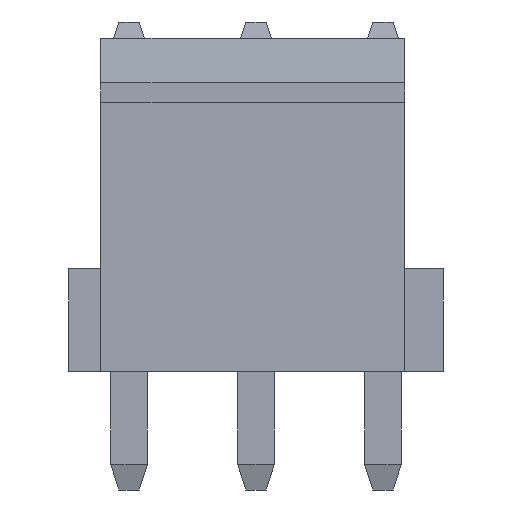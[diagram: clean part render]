
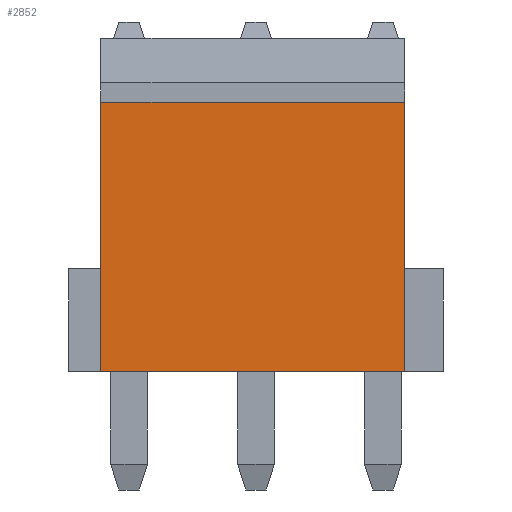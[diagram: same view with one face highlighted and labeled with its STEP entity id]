
A CAD part, left-side view. The second image highlights one B-rep face of the part: STEP entity #2852.
In plain terms, the highlighted planar face has unit normal (-1, 0, 0).
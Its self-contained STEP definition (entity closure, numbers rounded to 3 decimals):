
#998 = PLANE('',#999);
#999 = AXIS2_PLACEMENT_3D('',#1000,#1001,#1002);
#1000 = CARTESIAN_POINT('',(-3.2,-0.68,0.));
#1001 = DIRECTION('',(0.,1.,0.));
#1002 = DIRECTION('',(0.,0.,1.));
#1102 = PLANE('',#1103);
#1103 = AXIS2_PLACEMENT_3D('',#1104,#1105,#1106);
#1104 = CARTESIAN_POINT('',(-3.2,8.8,0.));
#1105 = DIRECTION('',(0.,1.,0.));
#1106 = DIRECTION('',(0.,0.,1.));
#1730 = VERTEX_POINT('',#1731);
#1731 = CARTESIAN_POINT('',(-3.2,-0.68,0.));
#1745 = PLANE('',#1746);
#1746 = AXIS2_PLACEMENT_3D('',#1747,#1748,#1749);
#1747 = CARTESIAN_POINT('',(-3.2,-0.68,0.));
#1748 = DIRECTION('',(0.,0.,1.));
#1749 = DIRECTION('',(1.,0.,0.));
#1757 = EDGE_CURVE('',#1730,#1758,#1760,.T.);
#1758 = VERTEX_POINT('',#1759);
#1759 = CARTESIAN_POINT('',(-3.2,-0.68,8.4));
#1760 = SURFACE_CURVE('',#1761,(#1765,#1772),.PCURVE_S1.);
#1761 = LINE('',#1762,#1763);
#1762 = CARTESIAN_POINT('',(-3.2,-0.68,0.));
#1763 = VECTOR('',#1764,1.);
#1764 = DIRECTION('',(0.,0.,1.));
#1765 = PCURVE('',#998,#1766);
#1766 = DEFINITIONAL_REPRESENTATION('',(#1767),#1771);
#1767 = LINE('',#1768,#1769);
#1768 = CARTESIAN_POINT('',(0.,0.));
#1769 = VECTOR('',#1770,1.);
#1770 = DIRECTION('',(1.,0.));
#1771 = ( GEOMETRIC_REPRESENTATION_CONTEXT(2) 
PARAMETRIC_REPRESENTATION_CONTEXT() REPRESENTATION_CONTEXT('2D SPACE',''
  ) );
#1772 = PCURVE('',#1773,#1778);
#1773 = PLANE('',#1774);
#1774 = AXIS2_PLACEMENT_3D('',#1775,#1776,#1777);
#1775 = CARTESIAN_POINT('',(-3.2,-0.68,0.));
#1776 = DIRECTION('',(1.,0.,0.));
#1777 = DIRECTION('',(0.,0.,1.));
#1778 = DEFINITIONAL_REPRESENTATION('',(#1779),#1783);
#1779 = LINE('',#1780,#1781);
#1780 = CARTESIAN_POINT('',(0.,0.));
#1781 = VECTOR('',#1782,1.);
#1782 = DIRECTION('',(1.,0.));
#1783 = ( GEOMETRIC_REPRESENTATION_CONTEXT(2) 
PARAMETRIC_REPRESENTATION_CONTEXT() REPRESENTATION_CONTEXT('2D SPACE',''
  ) );
#2269 = VERTEX_POINT('',#2270);
#2270 = CARTESIAN_POINT('',(-3.2,8.8,0.));
#2291 = EDGE_CURVE('',#2269,#2292,#2294,.T.);
#2292 = VERTEX_POINT('',#2293);
#2293 = CARTESIAN_POINT('',(-3.2,8.8,8.4));
#2294 = SURFACE_CURVE('',#2295,(#2299,#2306),.PCURVE_S1.);
#2295 = LINE('',#2296,#2297);
#2296 = CARTESIAN_POINT('',(-3.2,8.8,0.));
#2297 = VECTOR('',#2298,1.);
#2298 = DIRECTION('',(0.,0.,1.));
#2299 = PCURVE('',#1102,#2300);
#2300 = DEFINITIONAL_REPRESENTATION('',(#2301),#2305);
#2301 = LINE('',#2302,#2303);
#2302 = CARTESIAN_POINT('',(0.,0.));
#2303 = VECTOR('',#2304,1.);
#2304 = DIRECTION('',(1.,0.));
#2305 = ( GEOMETRIC_REPRESENTATION_CONTEXT(2) 
PARAMETRIC_REPRESENTATION_CONTEXT() REPRESENTATION_CONTEXT('2D SPACE',''
  ) );
#2306 = PCURVE('',#1773,#2307);
#2307 = DEFINITIONAL_REPRESENTATION('',(#2308),#2312);
#2308 = LINE('',#2309,#2310);
#2309 = CARTESIAN_POINT('',(0.,-9.48));
#2310 = VECTOR('',#2311,1.);
#2311 = DIRECTION('',(1.,0.));
#2312 = ( GEOMETRIC_REPRESENTATION_CONTEXT(2) 
PARAMETRIC_REPRESENTATION_CONTEXT() REPRESENTATION_CONTEXT('2D SPACE',''
  ) );
#2742 = EDGE_CURVE('',#1730,#2269,#2743,.T.);
#2743 = SURFACE_CURVE('',#2744,(#2748,#2755),.PCURVE_S1.);
#2744 = LINE('',#2745,#2746);
#2745 = CARTESIAN_POINT('',(-3.2,-0.68,0.));
#2746 = VECTOR('',#2747,1.);
#2747 = DIRECTION('',(0.,1.,0.));
#2748 = PCURVE('',#1745,#2749);
#2749 = DEFINITIONAL_REPRESENTATION('',(#2750),#2754);
#2750 = LINE('',#2751,#2752);
#2751 = CARTESIAN_POINT('',(0.,0.));
#2752 = VECTOR('',#2753,1.);
#2753 = DIRECTION('',(0.,1.));
#2754 = ( GEOMETRIC_REPRESENTATION_CONTEXT(2) 
PARAMETRIC_REPRESENTATION_CONTEXT() REPRESENTATION_CONTEXT('2D SPACE',''
  ) );
#2755 = PCURVE('',#1773,#2756);
#2756 = DEFINITIONAL_REPRESENTATION('',(#2757),#2761);
#2757 = LINE('',#2758,#2759);
#2758 = CARTESIAN_POINT('',(0.,0.));
#2759 = VECTOR('',#2760,1.);
#2760 = DIRECTION('',(0.,-1.));
#2761 = ( GEOMETRIC_REPRESENTATION_CONTEXT(2) 
PARAMETRIC_REPRESENTATION_CONTEXT() REPRESENTATION_CONTEXT('2D SPACE',''
  ) );
#2785 = PLANE('',#2786);
#2786 = AXIS2_PLACEMENT_3D('',#2787,#2788,#2789);
#2787 = CARTESIAN_POINT('',(-3.8,-0.68,8.4));
#2788 = DIRECTION('',(0.,0.,1.));
#2789 = DIRECTION('',(1.,0.,0.));
#2852 = ADVANCED_FACE('',(#2853),#1773,.F.);
#2853 = FACE_BOUND('',#2854,.F.);
#2854 = EDGE_LOOP('',(#2855,#2856,#2857,#2858));
#2855 = ORIENTED_EDGE('',*,*,#1757,.F.);
#2856 = ORIENTED_EDGE('',*,*,#2742,.T.);
#2857 = ORIENTED_EDGE('',*,*,#2291,.T.);
#2858 = ORIENTED_EDGE('',*,*,#2859,.F.);
#2859 = EDGE_CURVE('',#1758,#2292,#2860,.T.);
#2860 = SURFACE_CURVE('',#2861,(#2865,#2872),.PCURVE_S1.);
#2861 = LINE('',#2862,#2863);
#2862 = CARTESIAN_POINT('',(-3.2,-0.68,8.4));
#2863 = VECTOR('',#2864,1.);
#2864 = DIRECTION('',(0.,1.,0.));
#2865 = PCURVE('',#1773,#2866);
#2866 = DEFINITIONAL_REPRESENTATION('',(#2867),#2871);
#2867 = LINE('',#2868,#2869);
#2868 = CARTESIAN_POINT('',(8.4,0.));
#2869 = VECTOR('',#2870,1.);
#2870 = DIRECTION('',(0.,-1.));
#2871 = ( GEOMETRIC_REPRESENTATION_CONTEXT(2) 
PARAMETRIC_REPRESENTATION_CONTEXT() REPRESENTATION_CONTEXT('2D SPACE',''
  ) );
#2872 = PCURVE('',#2785,#2873);
#2873 = DEFINITIONAL_REPRESENTATION('',(#2874),#2878);
#2874 = LINE('',#2875,#2876);
#2875 = CARTESIAN_POINT('',(0.6,0.));
#2876 = VECTOR('',#2877,1.);
#2877 = DIRECTION('',(0.,1.));
#2878 = ( GEOMETRIC_REPRESENTATION_CONTEXT(2) 
PARAMETRIC_REPRESENTATION_CONTEXT() REPRESENTATION_CONTEXT('2D SPACE',''
  ) );
